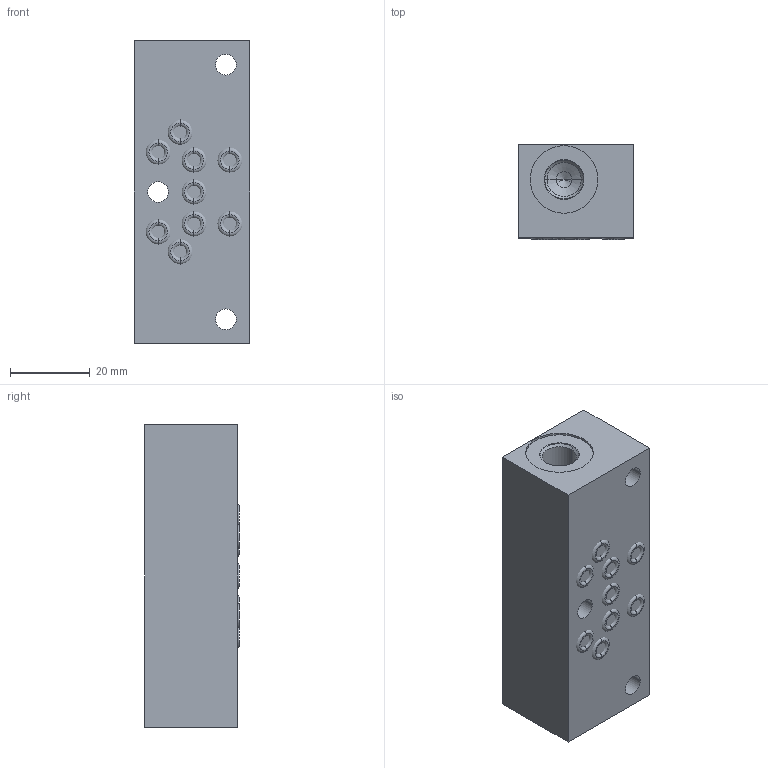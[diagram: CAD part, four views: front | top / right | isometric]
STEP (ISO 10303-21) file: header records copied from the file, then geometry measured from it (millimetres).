
FILE_DESCRIPTION((''),'2;1');
FILE_NAME('0641513_ASM','2023-07-20T11:38:36',('pietro.masciave'),(''),'CREO PARAMETRIC BY PTC INC, 2022281','CREO PARAMETRIC BY PTC INC, 2022281','');
FILE_SCHEMA(('CONFIG_CONTROL_DESIGN'));
Length unit declared in the file: millimetre
Products named in the file (3): 0641501; 0018887; 0641513_ASM
Assembly tree (10 placements, depth 2):
  0641513_ASM
    0641501
    0018887  x9
Bounding box: 29 x 23.85 x 76 mm (x, y, z)
Volume: 45833.9 mm3; surface area: 15130.8 mm2
Topology: 10 solids, 17 shells, 122 faces, 272 edges, 160 vertices
Faces by surface type: cylinder 42, torus 36, cone 26, plane 18
Entity records: 2696 total; most frequent: DIRECTION 530, CARTESIAN_POINT 433, ORIENTED_EDGE 372, AXIS2_PLACEMENT_3D 225, EDGE_CURVE 200, VERTEX_POINT 128, CIRCLE 120, EDGE_LOOP 112
